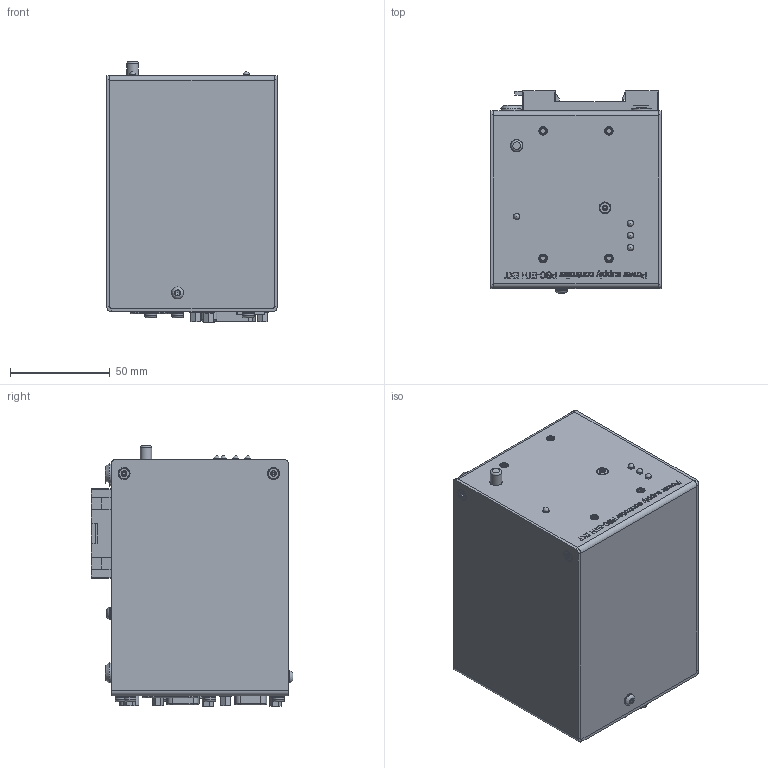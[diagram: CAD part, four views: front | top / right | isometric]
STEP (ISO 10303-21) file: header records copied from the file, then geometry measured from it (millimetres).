
FILE_DESCRIPTION(/* description */ (''),/* implementation_level */ '2;1');
FILE_NAME(/* name */ 'A:\Data\PSC-eth\step file\PSC-ETH.stp',/* time_stamp */ '2020-12-24T16:48:38+01:00',/* author */ ('Delta'),/* organization */ (''),/* preprocessor_version */ 'ST-DEVELOPER v17.2',/* originating_system */ 'Autodesk Inventor 2019',/* authorisation */ '');
FILE_SCHEMA (('AUTOMOTIVE_DESIGN { 1 0 10303 214 3 1 1 }'));
Products named in the file (1): Assembly PSC ETH_Shrinkwrap_1
Bounding box: 85.5 x 101.2 x 130.75 mm (x, y, z)
Volume: 917904.7 mm3; surface area: 68401.5 mm2
Topology: 1 solids, 2 shells, 2064 faces, 4944 edges, 3090 vertices
Faces by surface type: plane 1278, cylinder 335, cone 184, bspline 160, torus 95, sphere 12
Full cylindrical faces by diameter (mm): 0.92 x30, 1 x16, 1.66 x30, 2 x1, 2.156 x6, 2.459 x6, 2.75 x2, 2.9 x4, 3.2 x6, 4.14 x6, 4.3 x6, 4.4 x2, 4.5 x2, 5 x2, 5.5 x6, 5.8 x1, 6 x24, 6.2 x1, 10 x4
Entity records: 64949 total; most frequent: CARTESIAN_POINT 16108, ORIENTED_EDGE 9816, DIRECTION 9479, EDGE_CURVE 4908, AXIS2_PLACEMENT_3D 3270, VERTEX_POINT 3092, LINE 2939, VECTOR 2939
